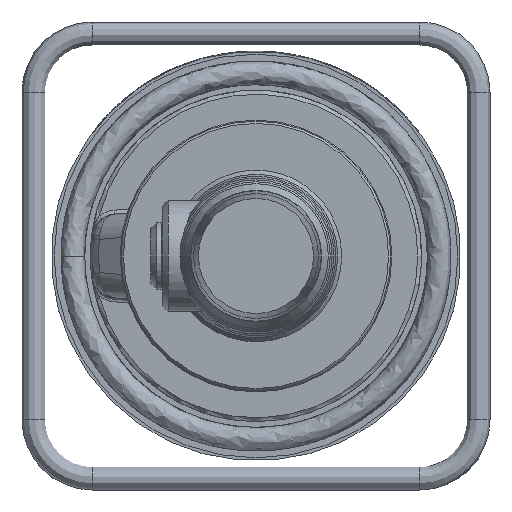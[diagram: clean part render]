
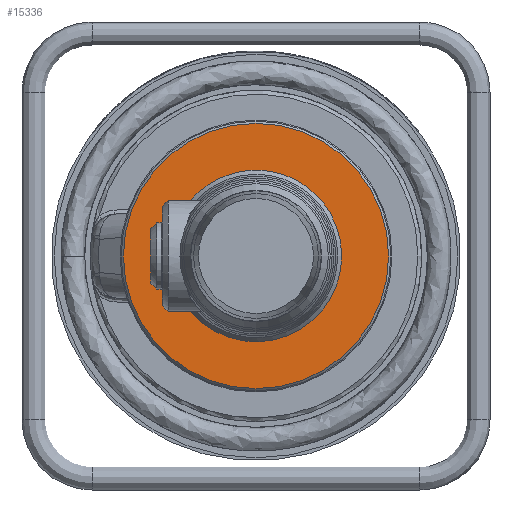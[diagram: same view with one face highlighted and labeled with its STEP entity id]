
A CAD part, left-side view. The second image highlights one B-rep face of the part: STEP entity #15336.
In plain terms, the highlighted planar face has unit normal (-1, 0, 0).
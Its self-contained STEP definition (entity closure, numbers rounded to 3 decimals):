
#809=B_SPLINE_CURVE_WITH_KNOTS('',3,(#35029,#35030,#35031,#35032,#35033,
#35034,#35035,#35036,#35037,#35038,#35039,#35040,#35041,#35042,#35043,#35044,
#35045,#35046,#35047,#35048,#35049,#35050,#35051,#35052,#35053,#35054),
 .UNSPECIFIED.,.F.,.F.,(4,2,2,2,2,2,2,2,2,2,2,2,4),(-9.637,-9.63,
-9.622,-9.603,-9.551,-9.384,
-8.87,-7.81,-6.371,-4.874,
-3.299,-1.673,0.),.UNSPECIFIED.);
#1538=PLANE('',#16171);
#2386=LINE('',#35027,#3232);
#3232=VECTOR('',#18642,1.668);
#3437=FACE_BOUND('',#5254,.T.);
#4247=FACE_OUTER_BOUND('',#5253,.T.);
#5253=EDGE_LOOP('',(#13498));
#5254=EDGE_LOOP('',(#13499,#13500,#13501));
#5887=CIRCLE('',#16172,68.);
#5888=CIRCLE('',#16173,40.75);
#7376=VERTEX_POINT('',#35023);
#7377=VERTEX_POINT('',#35025);
#7378=VERTEX_POINT('',#35026);
#7379=VERTEX_POINT('',#35028);
#9464=EDGE_CURVE('',#7376,#7376,#5887,.T.);
#9465=EDGE_CURVE('',#7377,#7378,#2386,.T.);
#9466=EDGE_CURVE('',#7379,#7377,#809,.T.);
#9467=EDGE_CURVE('',#7379,#7378,#5888,.T.);
#13498=ORIENTED_EDGE('',*,*,#9464,.F.);
#13499=ORIENTED_EDGE('',*,*,#9465,.F.);
#13500=ORIENTED_EDGE('',*,*,#9466,.F.);
#13501=ORIENTED_EDGE('',*,*,#9467,.T.);
#15336=ADVANCED_FACE('',(#4247,#3437),#1538,.T.);
#16171=AXIS2_PLACEMENT_3D('',#35022,#18638,#18639);
#16172=AXIS2_PLACEMENT_3D('',#35024,#18640,#18641);
#16173=AXIS2_PLACEMENT_3D('',#35055,#18643,#18644);
#18638=DIRECTION('center_axis',(-1.,0.,0.));
#18639=DIRECTION('ref_axis',(0.,-1.,0.));
#18640=DIRECTION('center_axis',(1.,0.,0.));
#18641=DIRECTION('ref_axis',(0.,0.,
-1.));
#18642=DIRECTION('',(0.,0.951,-0.309));
#18643=DIRECTION('center_axis',(1.,0.,0.));
#18644=DIRECTION('ref_axis',(0.,0.,
-1.));
#35022=CARTESIAN_POINT('Origin',(-128.,0.,-55.5));
#35023=CARTESIAN_POINT('',(-128.,0.,-68.));
#35024=CARTESIAN_POINT('Origin',(-128.,0.,0.));
#35025=CARTESIAN_POINT('',(-128.,-40.342,13.108));
#35026=CARTESIAN_POINT('',(-128.,-38.756,12.592));
#35027=CARTESIAN_POINT('',(-128.,-11.266,3.661));
#35028=CARTESIAN_POINT('',(-128.,6.525,-40.224));
#35029=CARTESIAN_POINT('Ctrl Pts',(-128.,6.525,-40.224));
#35030=CARTESIAN_POINT('Ctrl Pts',(-128.,6.526,-40.229));
#35031=CARTESIAN_POINT('Ctrl Pts',(-128.,6.526,-40.234));
#35032=CARTESIAN_POINT('Ctrl Pts',(-128.,6.524,-40.245));
#35033=CARTESIAN_POINT('Ctrl Pts',(-128.,6.523,-40.25));
#35034=CARTESIAN_POINT('Ctrl Pts',(-128.,6.515,-40.268));
#35035=CARTESIAN_POINT('Ctrl Pts',(-128.,6.507,-40.279));
#35036=CARTESIAN_POINT('Ctrl Pts',(-128.,6.472,-40.317));
#35037=CARTESIAN_POINT('Ctrl Pts',(-128.,6.433,-40.344));
#35038=CARTESIAN_POINT('Ctrl Pts',(-128.,6.276,-40.437));
#35039=CARTESIAN_POINT('Ctrl Pts',(-128.,6.099,-40.505));
#35040=CARTESIAN_POINT('Ctrl Pts',(-128.,5.564,-40.695));
#35041=CARTESIAN_POINT('Ctrl Pts',(-128.,4.963,-40.856));
#35042=CARTESIAN_POINT('Ctrl Pts',(-128.,2.674,-41.317));
#35043=CARTESIAN_POINT('Ctrl Pts',(-128.,0.244,-41.635));
#35044=CARTESIAN_POINT('Ctrl Pts',(-128.,-6.94,-41.468));
#35045=CARTESIAN_POINT('Ctrl Pts',(-128.,-11.399,-40.675));
#35046=CARTESIAN_POINT('Ctrl Pts',(-128.,-20.537,
-37.191));
#35047=CARTESIAN_POINT('Ctrl Pts',(-128.,-24.833,
-34.57));
#35048=CARTESIAN_POINT('Ctrl Pts',(-128.,-32.474,
-27.759));
#35049=CARTESIAN_POINT('Ctrl Pts',(-128.,-35.695,
-23.552));
#35050=CARTESIAN_POINT('Ctrl Pts',(-128.,-40.483,
-14.015));
#35051=CARTESIAN_POINT('Ctrl Pts',(-128.,-41.949,
-8.738));
#35052=CARTESIAN_POINT('Ctrl Pts',(-128.,-42.796,
2.228));
#35053=CARTESIAN_POINT('Ctrl Pts',(-128.,-42.109,7.82));
#35054=CARTESIAN_POINT('Ctrl Pts',(-128.,-40.342,13.108));
#35055=CARTESIAN_POINT('Origin',(-128.,0.,
0.));
